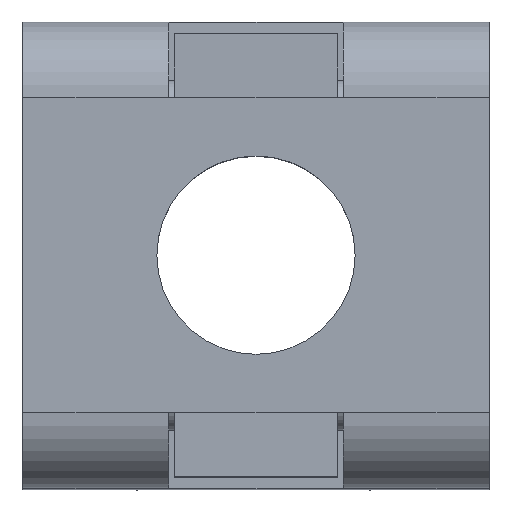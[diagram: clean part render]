
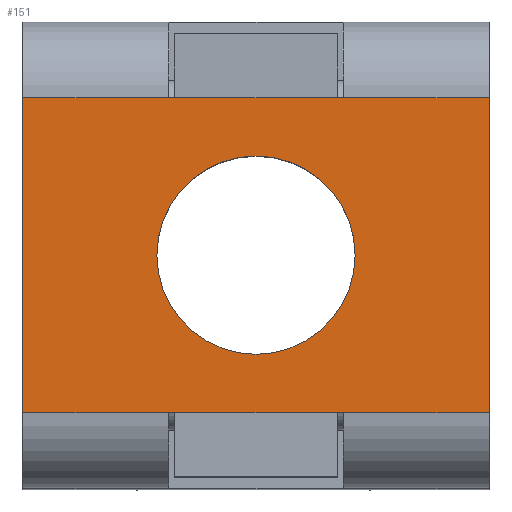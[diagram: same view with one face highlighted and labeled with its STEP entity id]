
A CAD part, top view. The second image highlights one B-rep face of the part: STEP entity #151.
In plain terms, the highlighted planar face has unit normal (0, 0, 1).
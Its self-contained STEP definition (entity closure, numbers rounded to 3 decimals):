
#105=FACE_BOUND('',#349,.T.);
#106=FACE_BOUND('',#350,.T.);
#151=ADVANCED_FACE('',(#105,#106),#228,.F.);
#228=PLANE('',#1672);
#349=EDGE_LOOP('',(#511));
#350=EDGE_LOOP('',(#512,#513,#514,#515,#516,#517,#518,#519));
#434=CIRCLE('',#1671,1.7);
#511=ORIENTED_EDGE('',*,*,#1116,.F.);
#512=ORIENTED_EDGE('',*,*,#1115,.F.);
#513=ORIENTED_EDGE('',*,*,#1117,.F.);
#514=ORIENTED_EDGE('',*,*,#1118,.F.);
#515=ORIENTED_EDGE('',*,*,#1119,.T.);
#516=ORIENTED_EDGE('',*,*,#1120,.F.);
#517=ORIENTED_EDGE('',*,*,#1121,.T.);
#518=ORIENTED_EDGE('',*,*,#1122,.T.);
#519=ORIENTED_EDGE('',*,*,#1123,.F.);
#946=VERTEX_POINT('',#2249);
#957=VERTEX_POINT('',#2274);
#961=VERTEX_POINT('',#2287);
#962=VERTEX_POINT('',#2289);
#963=VERTEX_POINT('',#2291);
#964=VERTEX_POINT('',#2293);
#965=VERTEX_POINT('',#2295);
#966=VERTEX_POINT('',#2297);
#967=VERTEX_POINT('',#2299);
#1115=EDGE_CURVE('',#957,#946,#1338,.T.);
#1116=EDGE_CURVE('',#961,#961,#434,.T.);
#1117=EDGE_CURVE('',#962,#957,#1339,.T.);
#1118=EDGE_CURVE('',#963,#962,#1340,.T.);
#1119=EDGE_CURVE('',#963,#964,#1341,.T.);
#1120=EDGE_CURVE('',#965,#964,#1342,.T.);
#1121=EDGE_CURVE('',#965,#966,#1343,.T.);
#1122=EDGE_CURVE('',#966,#967,#1344,.T.);
#1123=EDGE_CURVE('',#946,#967,#1345,.T.);
#1338=LINE('',#2284,#1506);
#1339=LINE('',#2288,#1507);
#1340=LINE('',#2290,#1508);
#1341=LINE('',#2292,#1509);
#1342=LINE('',#2294,#1510);
#1343=LINE('',#2296,#1511);
#1344=LINE('',#2298,#1512);
#1345=LINE('',#2300,#1513);
#1506=VECTOR('',#1831,1.);
#1507=VECTOR('',#1836,1.);
#1508=VECTOR('',#1837,1.);
#1509=VECTOR('',#1838,1.);
#1510=VECTOR('',#1839,1.);
#1511=VECTOR('',#1840,1.);
#1512=VECTOR('',#1841,1.);
#1513=VECTOR('',#1842,1.);
#1671=AXIS2_PLACEMENT_3D('',#2286,#1834,#1835);
#1672=AXIS2_PLACEMENT_3D('',#2301,#1843,#1844);
#1831=DIRECTION('',(-1.,0.,0.));
#1834=DIRECTION('',(0.,0.,1.));
#1835=DIRECTION('',(1.,0.,0.));
#1836=DIRECTION('',(-1.,0.,0.));
#1837=DIRECTION('',(0.,-1.,0.));
#1838=DIRECTION('',(-1.,0.,0.));
#1839=DIRECTION('',(1.,0.,0.));
#1840=DIRECTION('',(-1.,0.,0.));
#1841=DIRECTION('',(0.,-1.,0.));
#1842=DIRECTION('',(-1.,0.,0.));
#1843=DIRECTION('',(0.,0.,-1.));
#1844=DIRECTION('',(1.,0.,0.));
#2249=CARTESIAN_POINT('',(2.5,2.3,8.5));
#2274=CARTESIAN_POINT('',(5.5,2.3,8.5));
#2284=CARTESIAN_POINT('',(5.5,2.3,8.5));
#2286=CARTESIAN_POINT('',(4.,5.,8.5));
#2287=CARTESIAN_POINT('',(5.7,5.,8.5));
#2288=CARTESIAN_POINT('',(8.,2.3,8.5));
#2289=CARTESIAN_POINT('',(8.,2.3,8.5));
#2290=CARTESIAN_POINT('',(8.,8.7,8.5));
#2291=CARTESIAN_POINT('',(8.,7.7,8.5));
#2292=CARTESIAN_POINT('',(8.,7.7,8.5));
#2293=CARTESIAN_POINT('',(5.5,7.7,8.5));
#2294=CARTESIAN_POINT('',(2.5,7.7,8.5));
#2295=CARTESIAN_POINT('',(2.5,7.7,8.5));
#2296=CARTESIAN_POINT('',(8.,7.7,8.5));
#2297=CARTESIAN_POINT('',(0.,7.7,8.5));
#2298=CARTESIAN_POINT('',(0.,5.,8.5));
#2299=CARTESIAN_POINT('',(0.,2.3,8.5));
#2300=CARTESIAN_POINT('',(8.,2.3,8.5));
#2301=CARTESIAN_POINT('',(8.,5.,8.5));
